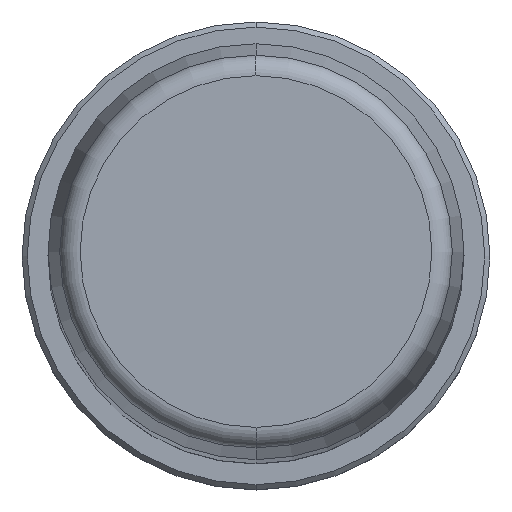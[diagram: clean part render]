
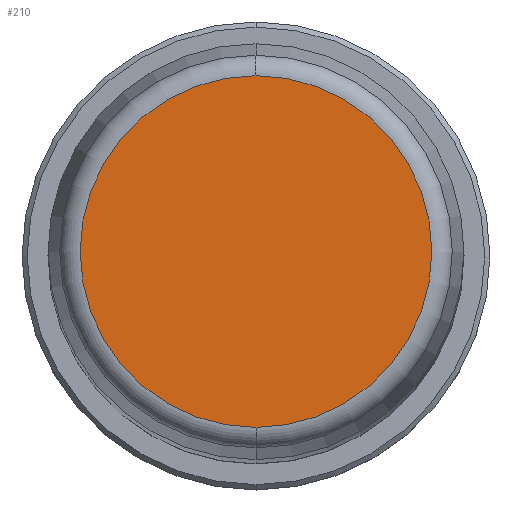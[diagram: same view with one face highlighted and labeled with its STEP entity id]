
A CAD part, top view. The second image highlights one B-rep face of the part: STEP entity #210.
In plain terms, the highlighted planar face has unit normal (0, 0, 1).
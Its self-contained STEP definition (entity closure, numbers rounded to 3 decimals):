
#1=CARTESIAN_POINT('',(0.,0.,250.));
#2=DIRECTION('',(0.,0.,-1.));
#3=DIRECTION('',(0.,-1.,0.));
#4=AXIS2_PLACEMENT_3D('',#1,#2,#3);
#6=CARTESIAN_POINT('',(0.,0.,250.));
#7=DIRECTION('',(0.,0.,-1.));
#8=DIRECTION('',(0.,1.,0.));
#9=AXIS2_PLACEMENT_3D('',#6,#7,#8);
#183=CARTESIAN_POINT('',(0.,-16.911,250.));
#184=CARTESIAN_POINT('',(0.,16.911,250.));
#185=VERTEX_POINT('',#183);
#186=VERTEX_POINT('',#184);
#199=CARTESIAN_POINT('',(0.,0.,250.));
#200=DIRECTION('',(0.,0.,1.));
#201=DIRECTION('',(0.,-1.,0.));
#202=AXIS2_PLACEMENT_3D('',#199,#200,#201);
#203=PLANE('',#202);
#205=ORIENTED_EDGE('',*,*,#204,.T.);
#207=ORIENTED_EDGE('',*,*,#206,.T.);
#208=EDGE_LOOP('',(#205,#207));
#209=FACE_OUTER_BOUND('',#208,.F.);
#210=ADVANCED_FACE('',(#209),#203,.T.);
#5=CIRCLE('',#4,16.911);
#10=CIRCLE('',#9,16.911);
#204=EDGE_CURVE('',#185,#186,#5,.T.);
#206=EDGE_CURVE('',#186,#185,#10,.T.);
